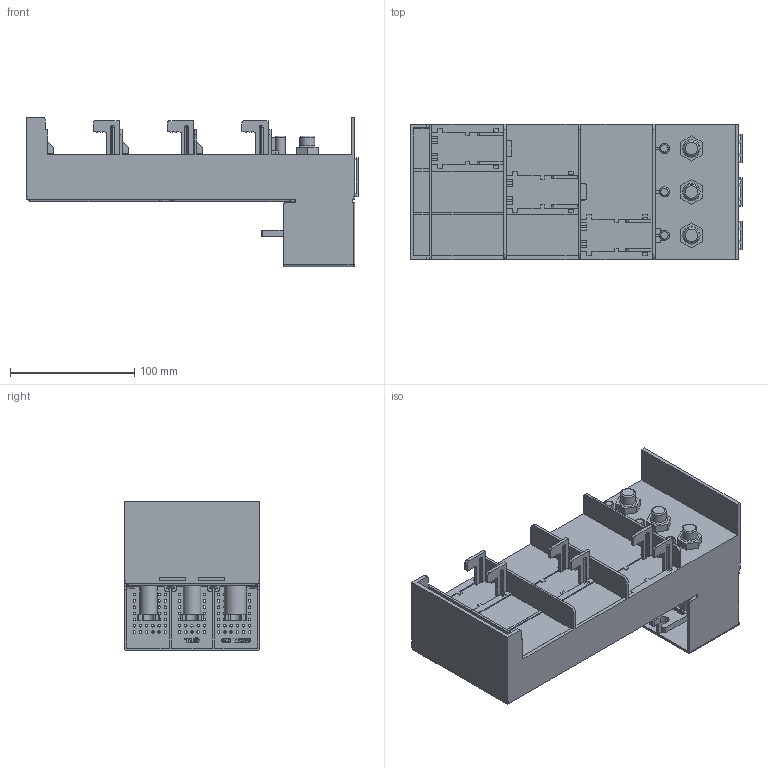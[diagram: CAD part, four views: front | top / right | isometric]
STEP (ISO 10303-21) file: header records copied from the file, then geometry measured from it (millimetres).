
FILE_DESCRIPTION (( 'STEP AP203' ), '1' );
FILE_NAME ('55037.STEP', '2021-08-25T02:59:42', ( '' ), ( '' ), 'SwSTEP 2.0', 'SolidWorks 2017', '' );
FILE_SCHEMA (( 'CONFIG_CONTROL_DESIGN' ));
Length unit declared in the file: millimetre
Products named in the file (2): 55037
Bounding box: 267.5 x 109 x 120.2 mm (x, y, z)
Volume: 1132902.4 mm3; surface area: 230274.8 mm2
Topology: 4 solids, 21 shells, 2970 faces, 8326 edges, 5490 vertices
Faces by surface type: plane 1925, cylinder 713, bspline 232, cone 85, torus 15
Full cylindrical faces by diameter (mm): 2 x119, 3.2 x5, 3.5 x2, 4 x4, 4.5 x4, 6.5 x2, 8 x4, 8.5 x14, 12 x3, 14 x2, 18 x1
Entity records: 113300 total; most frequent: CARTESIAN_POINT 38432, ORIENTED_EDGE 16170, DIRECTION 14054, EDGE_CURVE 8085, VERTEX_POINT 5469, LINE 5394, VECTOR 5394, AXIS2_PLACEMENT_3D 4330
